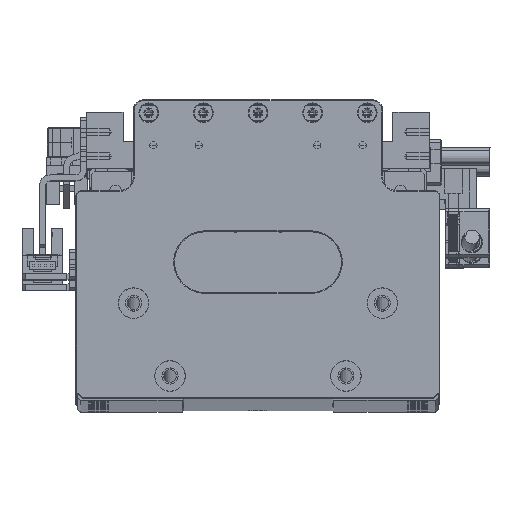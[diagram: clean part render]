
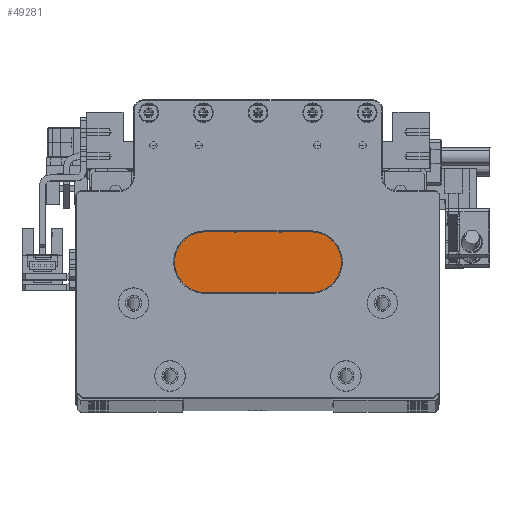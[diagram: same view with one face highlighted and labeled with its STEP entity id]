
A CAD part, top view. The second image highlights one B-rep face of the part: STEP entity #49281.
In plain terms, the highlighted planar face has unit normal (0, 0, 1).
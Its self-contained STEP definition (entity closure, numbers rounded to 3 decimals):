
#87 = FACE_BOUND ( 'NONE', #3735, .T. ) ;
#2649 = AXIS2_PLACEMENT_3D ( 'NONE', #46039, #115625, #55993 ) ;
#2876 = CIRCLE ( 'NONE', #128036, 1.25 ) ;
#3139 = CARTESIAN_POINT ( 'NONE',  ( -4.632, -17.023, 340. ) ) ;
#3149 = FACE_OUTER_BOUND ( 'NONE', #17849, .T. ) ;
#3735 = EDGE_LOOP ( 'NONE', ( #114795, #5239 ) ) ;
#4858 = CARTESIAN_POINT ( 'NONE',  ( -4.632, -9.023, 340. ) ) ;
#5239 = ORIENTED_EDGE ( 'NONE', *, *, #48379, .T. ) ;
#5714 = LINE ( 'NONE', #17486, #25949 ) ;
#5882 = ORIENTED_EDGE ( 'NONE', *, *, #93190, .T. ) ;
#8112 = VERTEX_POINT ( 'NONE', #45713 ) ;
#8541 = AXIS2_PLACEMENT_3D ( 'NONE', #4858, #24870, #94450 ) ;
#9286 = DIRECTION ( 'NONE',  ( 0., -1., 0. ) ) ;
#9420 = CARTESIAN_POINT ( 'NONE',  ( -12.132, -17.023, 340. ) ) ;
#10633 = LINE ( 'NONE', #127027, #86917 ) ;
#10709 = ORIENTED_EDGE ( 'NONE', *, *, #90763, .T. ) ;
#13196 = VERTEX_POINT ( 'NONE', #44056 ) ;
#13640 = VERTEX_POINT ( 'NONE', #102989 ) ;
#14487 = VECTOR ( 'NONE', #95427, 1000. ) ;
#16660 = VERTEX_POINT ( 'NONE', #83541 ) ;
#17486 = CARTESIAN_POINT ( 'NONE',  ( -4.632, -9.223, 340. ) ) ;
#17633 = LINE ( 'NONE', #85472, #14487 ) ;
#17849 = EDGE_LOOP ( 'NONE', ( #5882, #33776, #20964, #88131, #76403, #10709, #61596, #84907 ) ) ;
#19449 = DIRECTION ( 'NONE',  ( 1., 0., 0. ) ) ;
#19985 = VERTEX_POINT ( 'NONE', #43142 ) ;
#20964 = ORIENTED_EDGE ( 'NONE', *, *, #25204, .T. ) ;
#24870 = DIRECTION ( 'NONE',  ( 0., 0., 1. ) ) ;
#24985 = VERTEX_POINT ( 'NONE', #45807 ) ;
#25204 = EDGE_CURVE ( 'NONE', #61745, #24985, #115358, .T. ) ;
#25949 = VECTOR ( 'NONE', #77095, 1000. ) ;
#26481 = FACE_BOUND ( 'NONE', #95169, .T. ) ;
#27500 = CARTESIAN_POINT ( 'NONE',  ( 4.118, -17.023, 340. ) ) ;
#27644 = CARTESIAN_POINT ( 'NONE',  ( -12.132, -17.023, 340. ) ) ;
#27856 = CARTESIAN_POINT ( 'NONE',  ( -34.632, -49.023, 340. ) ) ;
#29997 = EDGE_CURVE ( 'NONE', #81629, #16660, #121119, .T. ) ;
#33776 = ORIENTED_EDGE ( 'NONE', *, *, #124742, .T. ) ;
#37682 = DIRECTION ( 'NONE',  ( 1., 0., 0. ) ) ;
#39104 = EDGE_CURVE ( 'NONE', #19985, #125270, #60200, .T. ) ;
#42014 = VECTOR ( 'NONE', #9286, 1000. ) ;
#42081 = ORIENTED_EDGE ( 'NONE', *, *, #53126, .T. ) ;
#43142 = CARTESIAN_POINT ( 'NONE',  ( -34.432, -49.023, 340. ) ) ;
#44056 = CARTESIAN_POINT ( 'NONE',  ( 13.868, -9.223, 340. ) ) ;
#45295 = DIRECTION ( 'NONE',  ( 0., 0., -1. ) ) ;
#45374 = CIRCLE ( 'NONE', #2649, 1.25 ) ;
#45713 = CARTESIAN_POINT ( 'NONE',  ( 25.168, -17.023, 340. ) ) ;
#45807 = CARTESIAN_POINT ( 'NONE',  ( -34.432, -17.023, 340. ) ) ;
#46039 = CARTESIAN_POINT ( 'NONE',  ( 2.868, -17.023, 340. ) ) ;
#48282 = LINE ( 'NONE', #98446, #42014 ) ;
#48379 = EDGE_CURVE ( 'NONE', #16660, #81629, #45374, .T. ) ;
#49281 = ADVANCED_FACE ( 'NONE', ( #3149, #87, #26481 ), #74017, .T. ) ;
#51284 = AXIS2_PLACEMENT_3D ( 'NONE', #104802, #45295, #114878 ) ;
#52003 = LINE ( 'NONE', #3139, #125166 ) ;
#53126 = EDGE_CURVE ( 'NONE', #110024, #13640, #2876, .T. ) ;
#55993 = DIRECTION ( 'NONE',  ( 1., 0., 0. ) ) ;
#57376 = DIRECTION ( 'NONE',  ( 0., 1., 0. ) ) ;
#57495 = DIRECTION ( 'NONE',  ( 0., 1., 0. ) ) ;
#60200 = LINE ( 'NONE', #27856, #80470 ) ;
#61596 = ORIENTED_EDGE ( 'NONE', *, *, #108989, .T. ) ;
#61745 = VERTEX_POINT ( 'NONE', #102440 ) ;
#65509 = VECTOR ( 'NONE', #69488, 1000. ) ;
#67713 = CARTESIAN_POINT ( 'NONE',  ( -13.382, -17.023, 340. ) ) ;
#68252 = AXIS2_PLACEMENT_3D ( 'NONE', #27644, #97225, #37682 ) ;
#69488 = DIRECTION ( 'NONE',  ( -1., 0., 0. ) ) ;
#74017 = PLANE ( 'NONE',  #8541 ) ;
#76403 = ORIENTED_EDGE ( 'NONE', *, *, #39104, .T. ) ;
#77095 = DIRECTION ( 'NONE',  ( -1., 0., 0. ) ) ;
#77469 = DIRECTION ( 'NONE',  ( 1., 0., 0. ) ) ;
#78654 = EDGE_CURVE ( 'NONE', #85428, #13196, #123671, .T. ) ;
#79023 = DIRECTION ( 'NONE',  ( 0., 0., -1. ) ) ;
#80470 = VECTOR ( 'NONE', #77469, 1000. ) ;
#80842 = CARTESIAN_POINT ( 'NONE',  ( 13.868, -17.023, 340. ) ) ;
#81629 = VERTEX_POINT ( 'NONE', #27500 ) ;
#83541 = CARTESIAN_POINT ( 'NONE',  ( 1.618, -17.023, 340. ) ) ;
#84907 = ORIENTED_EDGE ( 'NONE', *, *, #78654, .T. ) ;
#85301 = CIRCLE ( 'NONE', #68252, 1.25 ) ;
#85428 = VERTEX_POINT ( 'NONE', #80842 ) ;
#85472 = CARTESIAN_POINT ( 'NONE',  ( -23.132, -9.023, 340. ) ) ;
#86917 = VECTOR ( 'NONE', #57376, 1000. ) ;
#87095 = CARTESIAN_POINT ( 'NONE',  ( 13.868, -9.023, 340. ) ) ;
#88131 = ORIENTED_EDGE ( 'NONE', *, *, #99293, .T. ) ;
#90763 = EDGE_CURVE ( 'NONE', #125270, #8112, #10633, .T. ) ;
#92101 = CARTESIAN_POINT ( 'NONE',  ( 25.168, -49.023, 340. ) ) ;
#92709 = DIRECTION ( 'NONE',  ( -1., 0., 0. ) ) ;
#93190 = EDGE_CURVE ( 'NONE', #13196, #118116, #5714, .T. ) ;
#94450 = DIRECTION ( 'NONE',  ( 1., 0., 0. ) ) ;
#95169 = EDGE_LOOP ( 'NONE', ( #104726, #42081 ) ) ;
#95427 = DIRECTION ( 'NONE',  ( 0., -1., 0. ) ) ;
#97127 = VECTOR ( 'NONE', #57495, 1000. ) ;
#97225 = DIRECTION ( 'NONE',  ( 0., 0., -1. ) ) ;
#98446 = CARTESIAN_POINT ( 'NONE',  ( -34.432, -9.023, 340. ) ) ;
#99293 = EDGE_CURVE ( 'NONE', #24985, #19985, #48282, .T. ) ;
#99485 = CARTESIAN_POINT ( 'NONE',  ( -4.632, -17.023, 340. ) ) ;
#102440 = CARTESIAN_POINT ( 'NONE',  ( -23.132, -17.023, 340. ) ) ;
#102989 = CARTESIAN_POINT ( 'NONE',  ( -10.882, -17.023, 340. ) ) ;
#104726 = ORIENTED_EDGE ( 'NONE', *, *, #121547, .T. ) ;
#104802 = CARTESIAN_POINT ( 'NONE',  ( 2.868, -17.023, 340. ) ) ;
#108989 = EDGE_CURVE ( 'NONE', #8112, #85428, #52003, .T. ) ;
#110024 = VERTEX_POINT ( 'NONE', #67713 ) ;
#114795 = ORIENTED_EDGE ( 'NONE', *, *, #29997, .T. ) ;
#114878 = DIRECTION ( 'NONE',  ( 1., 0., 0. ) ) ;
#115358 = LINE ( 'NONE', #99485, #65509 ) ;
#115625 = DIRECTION ( 'NONE',  ( 0., 0., -1. ) ) ;
#118116 = VERTEX_POINT ( 'NONE', #119741 ) ;
#119741 = CARTESIAN_POINT ( 'NONE',  ( -23.132, -9.223, 340. ) ) ;
#121119 = CIRCLE ( 'NONE', #51284, 1.25 ) ;
#121547 = EDGE_CURVE ( 'NONE', #13640, #110024, #85301, .T. ) ;
#123671 = LINE ( 'NONE', #87095, #97127 ) ;
#124742 = EDGE_CURVE ( 'NONE', #118116, #61745, #17633, .T. ) ;
#125166 = VECTOR ( 'NONE', #92709, 1000. ) ;
#125270 = VERTEX_POINT ( 'NONE', #92101 ) ;
#127027 = CARTESIAN_POINT ( 'NONE',  ( 25.168, -9.023, 340. ) ) ;
#128036 = AXIS2_PLACEMENT_3D ( 'NONE', #9420, #79023, #19449 ) ;
